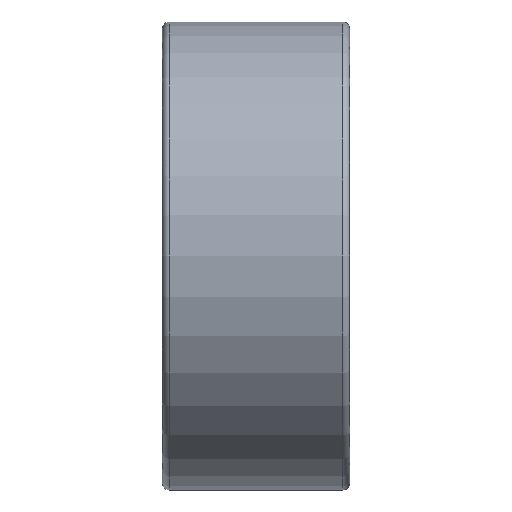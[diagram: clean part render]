
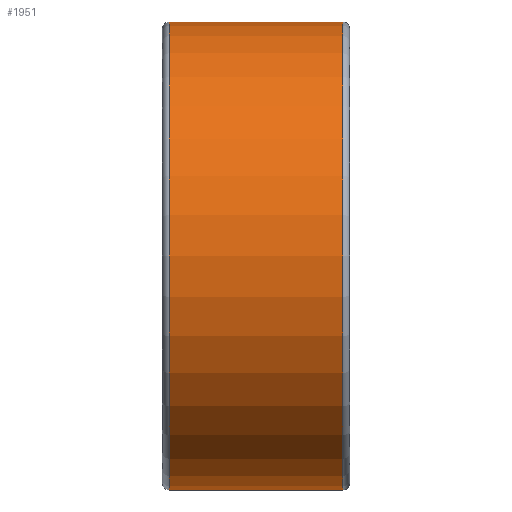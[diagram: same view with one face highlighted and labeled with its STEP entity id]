
A CAD part, front view. The second image highlights one B-rep face of the part: STEP entity #1951.
In plain terms, the highlighted cylindrical face has radius 20 mm (diameter 40 mm), a full revolution.
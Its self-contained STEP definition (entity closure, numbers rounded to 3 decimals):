
#416=CYLINDRICAL_SURFACE($,#2110,20.);
#473=FACE_BOUND($,#694,.T.);
#560=FACE_OUTER_BOUND($,#693,.T.);
#693=EDGE_LOOP($,(#1459));
#694=EDGE_LOOP($,(#1460));
#876=CIRCLE($,#2109,20.);
#877=CIRCLE($,#2111,20.);
#1000=VERTEX_POINT($,#3066);
#1001=VERTEX_POINT($,#3069);
#1188=EDGE_CURVE($,#1000,#1000,#876,.T.);
#1189=EDGE_CURVE($,#1001,#1001,#877,.T.);
#1459=ORIENTED_EDGE($,*,*,#1188,.T.);
#1460=ORIENTED_EDGE($,*,*,#1189,.F.);
#1951=ADVANCED_FACE($,(#560,#473),#416,.T.);
#2109=AXIS2_PLACEMENT_3D($,#3067,#2421,#2422);
#2110=AXIS2_PLACEMENT_3D($,#3068,#2423,#2424);
#2111=AXIS2_PLACEMENT_3D($,#3070,#2425,#2426);
#2421=DIRECTION('center_axis',(-1.,0.,0.));
#2422=DIRECTION('ref_axis',(0.,0.,1.));
#2423=DIRECTION('center_axis',(-1.,0.,0.));
#2424=DIRECTION('ref_axis',(0.,-1.,0.));
#2425=DIRECTION('center_axis',(-1.,0.,0.));
#2426=DIRECTION('ref_axis',(0.,0.,1.));
#3066=CARTESIAN_POINT('',(11.9,-20.,0.));
#3067=CARTESIAN_POINT('Origin',(11.9,0.,0.));
#3068=CARTESIAN_POINT('Origin',(4.5,0.,0.));
#3069=CARTESIAN_POINT('',(-2.9,-20.,0.));
#3070=CARTESIAN_POINT('Origin',(-2.9,0.,0.));
